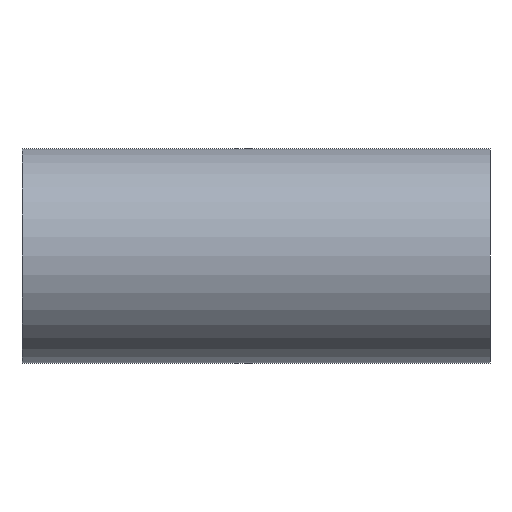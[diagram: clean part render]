
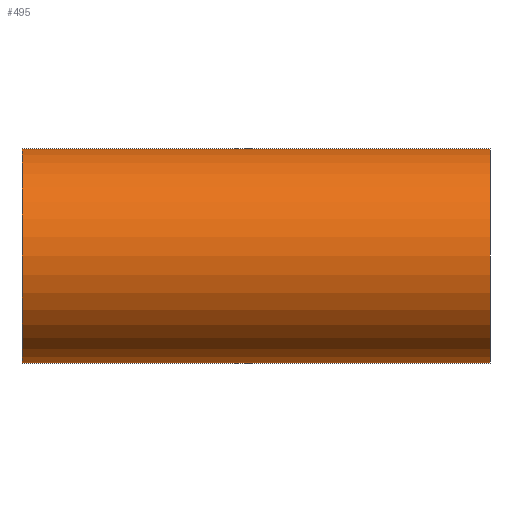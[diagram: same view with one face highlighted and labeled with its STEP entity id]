
A CAD part, front view. The second image highlights one B-rep face of the part: STEP entity #495.
In plain terms, the highlighted cylindrical face has radius 50.8 mm (diameter 101.6 mm), a partial arc.
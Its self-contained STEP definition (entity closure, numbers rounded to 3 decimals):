
#11 = CARTESIAN_POINT ( 'NONE',  ( 110.7, 0., 0. ) ) ;
#13 = DIRECTION ( 'NONE',  ( -1., 0., 0. ) ) ;
#18 = ORIENTED_EDGE ( 'NONE', *, *, #567, .T. ) ;
#21 = CARTESIAN_POINT ( 'NONE',  ( 254.384, 0., 50.8 ) ) ;
#27 = DIRECTION ( 'NONE',  ( 0., 0., 1. ) ) ;
#56 = DIRECTION ( 'NONE',  ( -1., 0., 0. ) ) ;
#79 = VERTEX_POINT ( 'NONE', #368 ) ;
#84 = CARTESIAN_POINT ( 'NONE',  ( 110.7, 0., 50.8 ) ) ;
#114 = DIRECTION ( 'NONE',  ( 0., 0., 1. ) ) ;
#124 = EDGE_LOOP ( 'NONE', ( #589, #466, #18, #439 ) ) ;
#137 = DIRECTION ( 'NONE',  ( 0., 0., 1. ) ) ;
#146 = VERTEX_POINT ( 'NONE', #381 ) ;
#163 = VERTEX_POINT ( 'NONE', #400 ) ;
#177 = AXIS2_PLACEMENT_3D ( 'NONE', #344, #562, #27 ) ;
#200 = VERTEX_POINT ( 'NONE', #84 ) ;
#207 = CIRCLE ( 'NONE', #221, 50.8 ) ;
#221 = AXIS2_PLACEMENT_3D ( 'NONE', #11, #56, #114 ) ;
#222 = CIRCLE ( 'NONE', #565, 50.8 ) ;
#236 = LINE ( 'NONE', #434, #254 ) ;
#254 = VECTOR ( 'NONE', #519, 1000. ) ;
#277 = EDGE_CURVE ( 'NONE', #79, #146, #222, .T. ) ;
#305 = DIRECTION ( 'NONE',  ( 1., 0., 0. ) ) ;
#334 = CARTESIAN_POINT ( 'NONE',  ( -110.7, 0., 0. ) ) ;
#344 = CARTESIAN_POINT ( 'NONE',  ( 254.384, 0., 0. ) ) ;
#368 = CARTESIAN_POINT ( 'NONE',  ( -110.7, 0., 50.8 ) ) ;
#372 = CYLINDRICAL_SURFACE ( 'NONE', #177, 50.8 ) ;
#381 = CARTESIAN_POINT ( 'NONE',  ( -110.7, 0., -50.8 ) ) ;
#390 = VECTOR ( 'NONE', #13, 1000. ) ;
#400 = CARTESIAN_POINT ( 'NONE',  ( 110.7, 0., -50.8 ) ) ;
#432 = FACE_OUTER_BOUND ( 'NONE', #124, .T. ) ;
#434 = CARTESIAN_POINT ( 'NONE',  ( 254.384, 0., -50.8 ) ) ;
#439 = ORIENTED_EDGE ( 'NONE', *, *, #277, .T. ) ;
#466 = ORIENTED_EDGE ( 'NONE', *, *, #591, .T. ) ;
#495 = ADVANCED_FACE ( 'NONE', ( #432 ), #372, .T. ) ;
#516 = LINE ( 'NONE', #21, #390 ) ;
#519 = DIRECTION ( 'NONE',  ( -1., 0., 0. ) ) ;
#543 = EDGE_CURVE ( 'NONE', #163, #146, #236, .T. ) ;
#562 = DIRECTION ( 'NONE',  ( -1., 0., 0. ) ) ;
#565 = AXIS2_PLACEMENT_3D ( 'NONE', #334, #305, #137 ) ;
#567 = EDGE_CURVE ( 'NONE', #200, #79, #516, .T. ) ;
#589 = ORIENTED_EDGE ( 'NONE', *, *, #543, .F. ) ;
#591 = EDGE_CURVE ( 'NONE', #163, #200, #207, .T. ) ;
